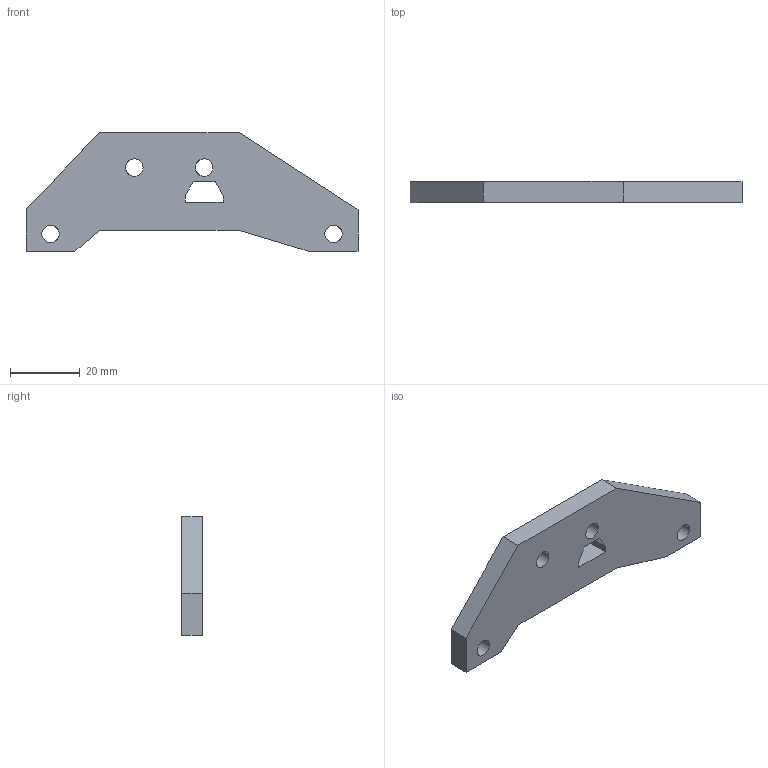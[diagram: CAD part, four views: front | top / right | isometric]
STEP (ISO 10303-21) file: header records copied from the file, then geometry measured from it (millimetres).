
FILE_DESCRIPTION(/* description */ (''),/* implementation_level */ '2;1');
FILE_NAME(/* name */ '7.x-cart#7.6#la-mpk-8',/* time_stamp */ '2014-12-01T20:17:43+01:00',/* author */ (''),/* organization */ (''),/* preprocessor_version */ 'ST-DEVELOPER v14',/* originating_system */ '',/* authorisation */ '');
FILE_SCHEMA (('AUTOMOTIVE_DESIGN'));
Length unit declared in the file: millimetre
Products named in the file (1): Document
Bounding box: 95 x 6 x 34 mm (x, y, z)
Volume: 13017.7 mm3; surface area: 6295.8 mm2
Topology: 1 solids, 1 shells, 27 faces, 75 edges, 50 vertices
Faces by surface type: plane 19, bspline 8
Entity records: 1788 total; most frequent: CARTESIAN_POINT 761, B_SPLINE_CURVE_WITH_KNOTS 185, ORIENTED_EDGE 150, PCURVE 150, DEFINITIONAL_REPRESENTATION 150, SURFACE_CURVE 75, EDGE_CURVE 75, VERTEX_POINT 50
